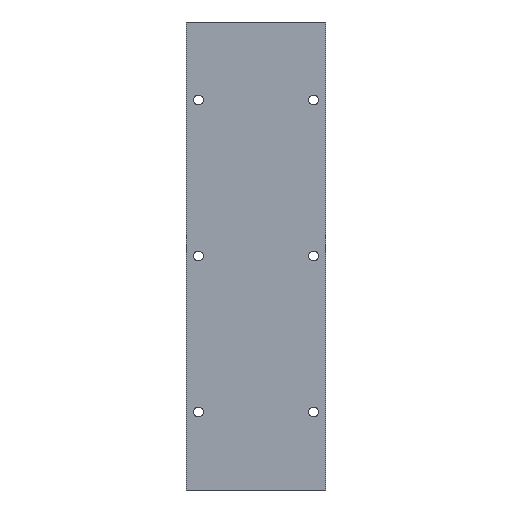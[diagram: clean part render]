
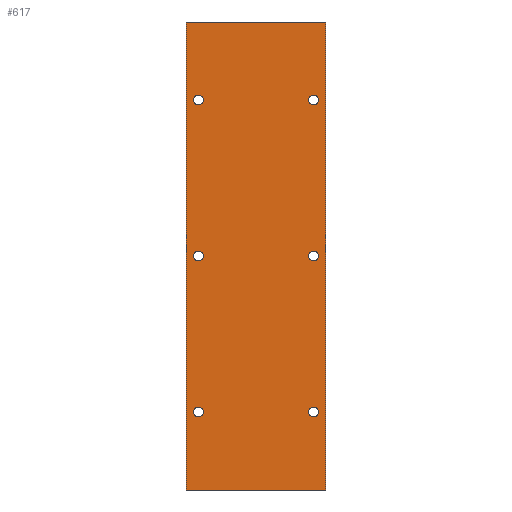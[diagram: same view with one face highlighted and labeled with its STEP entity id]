
A CAD part, front view. The second image highlights one B-rep face of the part: STEP entity #617.
In plain terms, the highlighted planar face has unit normal (0, -1, 0).
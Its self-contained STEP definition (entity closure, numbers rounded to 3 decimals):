
#4 = AXIS2_PLACEMENT_3D ( 'NONE', #748, #435, #426 ) ;
#11 = CARTESIAN_POINT ( 'NONE',  ( -37.5, -3., 252. ) ) ;
#12 = AXIS2_PLACEMENT_3D ( 'NONE', #736, #930, #330 ) ;
#13 = DIRECTION ( 'NONE',  ( 0., 0., -1. ) ) ;
#14 = LINE ( 'NONE', #1012, #496 ) ;
#31 = DIRECTION ( 'NONE',  ( 0., 1., 0. ) ) ;
#34 = FACE_OUTER_BOUND ( 'NONE', #968, .T. ) ;
#36 = VERTEX_POINT ( 'NONE', #396 ) ;
#39 = CARTESIAN_POINT ( 'NONE',  ( -31., -3., 123.35 ) ) ;
#40 = AXIS2_PLACEMENT_3D ( 'NONE', #711, #988, #997 ) ;
#41 = ORIENTED_EDGE ( 'NONE', *, *, #769, .T. ) ;
#49 = DIRECTION ( 'NONE',  ( 0., 0., 1. ) ) ;
#54 = CIRCLE ( 'NONE', #1256, 2.65 ) ;
#55 = CARTESIAN_POINT ( 'NONE',  ( 31., -3., 210. ) ) ;
#56 = ORIENTED_EDGE ( 'NONE', *, *, #188, .T. ) ;
#80 = FACE_BOUND ( 'NONE', #981, .T. ) ;
#81 = VERTEX_POINT ( 'NONE', #609 ) ;
#94 = EDGE_CURVE ( 'NONE', #943, #138, #1244, .T. ) ;
#107 = DIRECTION ( 'NONE',  ( 0., 1., 0. ) ) ;
#134 = DIRECTION ( 'NONE',  ( 0., 0., 1. ) ) ;
#138 = VERTEX_POINT ( 'NONE', #701 ) ;
#151 = DIRECTION ( 'NONE',  ( 1., 0., 0. ) ) ;
#155 = LINE ( 'NONE', #738, #702 ) ;
#159 = ORIENTED_EDGE ( 'NONE', *, *, #203, .T. ) ;
#162 = VERTEX_POINT ( 'NONE', #1222 ) ;
#177 = EDGE_CURVE ( 'NONE', #1114, #81, #917, .T. ) ;
#187 = CARTESIAN_POINT ( 'NONE',  ( -37.5, -3., 252. ) ) ;
#188 = EDGE_CURVE ( 'NONE', #652, #1093, #491, .T. ) ;
#195 = CIRCLE ( 'NONE', #740, 2.65 ) ;
#200 = PLANE ( 'NONE',  #662 ) ;
#203 = EDGE_CURVE ( 'NONE', #283, #36, #708, .T. ) ;
#220 = DIRECTION ( 'NONE',  ( 0., 0., 1. ) ) ;
#227 = FACE_BOUND ( 'NONE', #1031, .T. ) ;
#230 = ORIENTED_EDGE ( 'NONE', *, *, #1190, .F. ) ;
#234 = EDGE_CURVE ( 'NONE', #81, #1114, #54, .T. ) ;
#236 = ORIENTED_EDGE ( 'NONE', *, *, #355, .T. ) ;
#237 = LINE ( 'NONE', #1170, #959 ) ;
#245 = ORIENTED_EDGE ( 'NONE', *, *, #616, .T. ) ;
#252 = EDGE_CURVE ( 'NONE', #1029, #1217, #1173, .T. ) ;
#260 = CARTESIAN_POINT ( 'NONE',  ( 31., -3., 210. ) ) ;
#265 = DIRECTION ( 'NONE',  ( 0., 1., 0. ) ) ;
#283 = VERTEX_POINT ( 'NONE', #1229 ) ;
#286 = DIRECTION ( 'NONE',  ( 0., 0., 1. ) ) ;
#302 = VERTEX_POINT ( 'NONE', #755 ) ;
#303 = DIRECTION ( 'NONE',  ( 1., 0., 0. ) ) ;
#317 = DIRECTION ( 'NONE',  ( 0., 0., 1. ) ) ;
#330 = DIRECTION ( 'NONE',  ( 0., 0., 1. ) ) ;
#333 = VERTEX_POINT ( 'NONE', #566 ) ;
#342 = AXIS2_PLACEMENT_3D ( 'NONE', #55, #745, #49 ) ;
#349 = CARTESIAN_POINT ( 'NONE',  ( -37.5, -3., 252. ) ) ;
#355 = EDGE_CURVE ( 'NONE', #1093, #652, #606, .T. ) ;
#356 = CIRCLE ( 'NONE', #687, 2.65 ) ;
#367 = DIRECTION ( 'NONE',  ( 0., 0., 1. ) ) ;
#377 = DIRECTION ( 'NONE',  ( 0., 0., 1. ) ) ;
#396 = CARTESIAN_POINT ( 'NONE',  ( 31., -3., 44.65 ) ) ;
#400 = ORIENTED_EDGE ( 'NONE', *, *, #234, .T. ) ;
#411 = ORIENTED_EDGE ( 'NONE', *, *, #1062, .T. ) ;
#426 = DIRECTION ( 'NONE',  ( 0., 0., 1. ) ) ;
#435 = DIRECTION ( 'NONE',  ( 0., 1., 0. ) ) ;
#444 = DIRECTION ( 'NONE',  ( 0., 0., 1. ) ) ;
#490 = CARTESIAN_POINT ( 'NONE',  ( 31., -3., 212.65 ) ) ;
#491 = CIRCLE ( 'NONE', #12, 2.65 ) ;
#496 = VECTOR ( 'NONE', #303, 1000. ) ;
#508 = ORIENTED_EDGE ( 'NONE', *, *, #177, .T. ) ;
#519 = AXIS2_PLACEMENT_3D ( 'NONE', #732, #723, #529 ) ;
#529 = DIRECTION ( 'NONE',  ( 0., 0., 1. ) ) ;
#534 = ORIENTED_EDGE ( 'NONE', *, *, #842, .T. ) ;
#566 = CARTESIAN_POINT ( 'NONE',  ( 37.5, -3., 252. ) ) ;
#602 = CARTESIAN_POINT ( 'NONE',  ( 31., -3., 123.35 ) ) ;
#606 = CIRCLE ( 'NONE', #1249, 2.65 ) ;
#609 = CARTESIAN_POINT ( 'NONE',  ( 31., -3., 207.35 ) ) ;
#611 = CARTESIAN_POINT ( 'NONE',  ( -31., -3., 207.35 ) ) ;
#615 = CARTESIAN_POINT ( 'NONE',  ( -31., -3., 42. ) ) ;
#616 = EDGE_CURVE ( 'NONE', #677, #302, #195, .T. ) ;
#617 = ADVANCED_FACE ( 'NONE', ( #80, #801, #886, #227, #1171, #788, #34 ), #200, .F. ) ;
#619 = CARTESIAN_POINT ( 'NONE',  ( 31., -3., 126. ) ) ;
#623 = CIRCLE ( 'NONE', #1158, 2.65 ) ;
#638 = EDGE_LOOP ( 'NONE', ( #1247, #245 ) ) ;
#642 = ORIENTED_EDGE ( 'NONE', *, *, #94, .T. ) ;
#652 = VERTEX_POINT ( 'NONE', #39 ) ;
#662 = AXIS2_PLACEMENT_3D ( 'NONE', #11, #800, #286 ) ;
#677 = VERTEX_POINT ( 'NONE', #602 ) ;
#679 = ORIENTED_EDGE ( 'NONE', *, *, #1105, .T. ) ;
#687 = AXIS2_PLACEMENT_3D ( 'NONE', #619, #31, #317 ) ;
#689 = EDGE_CURVE ( 'NONE', #138, #943, #623, .T. ) ;
#694 = DIRECTION ( 'NONE',  ( 0., 0., 1. ) ) ;
#695 = AXIS2_PLACEMENT_3D ( 'NONE', #615, #714, #134 ) ;
#701 = CARTESIAN_POINT ( 'NONE',  ( -31., -3., 44.65 ) ) ;
#702 = VECTOR ( 'NONE', #151, 1000. ) ;
#705 = EDGE_CURVE ( 'NONE', #1029, #333, #14, .T. ) ;
#708 = CIRCLE ( 'NONE', #519, 2.65 ) ;
#711 = CARTESIAN_POINT ( 'NONE',  ( 31., -3., 42. ) ) ;
#714 = DIRECTION ( 'NONE',  ( 0., 1., 0. ) ) ;
#722 = EDGE_CURVE ( 'NONE', #302, #677, #356, .T. ) ;
#723 = DIRECTION ( 'NONE',  ( 0., 1., 0. ) ) ;
#726 = VERTEX_POINT ( 'NONE', #611 ) ;
#732 = CARTESIAN_POINT ( 'NONE',  ( 31., -3., 42. ) ) ;
#736 = CARTESIAN_POINT ( 'NONE',  ( -31., -3., 126. ) ) ;
#738 = CARTESIAN_POINT ( 'NONE',  ( -37.5, -3., 0. ) ) ;
#740 = AXIS2_PLACEMENT_3D ( 'NONE', #983, #1075, #694 ) ;
#742 = VERTEX_POINT ( 'NONE', #918 ) ;
#745 = DIRECTION ( 'NONE',  ( 0., 1., 0. ) ) ;
#746 = EDGE_LOOP ( 'NONE', ( #1248, #642 ) ) ;
#748 = CARTESIAN_POINT ( 'NONE',  ( -31., -3., 210. ) ) ;
#755 = CARTESIAN_POINT ( 'NONE',  ( 31., -3., 128.65 ) ) ;
#756 = EDGE_LOOP ( 'NONE', ( #679, #159 ) ) ;
#767 = AXIS2_PLACEMENT_3D ( 'NONE', #977, #107, #367 ) ;
#769 = EDGE_CURVE ( 'NONE', #726, #162, #979, .T. ) ;
#788 = FACE_BOUND ( 'NONE', #746, .T. ) ;
#800 = DIRECTION ( 'NONE',  ( 0., 1., 0. ) ) ;
#801 = FACE_BOUND ( 'NONE', #849, .T. ) ;
#825 = CIRCLE ( 'NONE', #40, 2.65 ) ;
#826 = DIRECTION ( 'NONE',  ( 0., 1., 0. ) ) ;
#842 = EDGE_CURVE ( 'NONE', #1217, #742, #155, .T. ) ;
#846 = CARTESIAN_POINT ( 'NONE',  ( -31., -3., 39.35 ) ) ;
#849 = EDGE_LOOP ( 'NONE', ( #411, #41 ) ) ;
#857 = ORIENTED_EDGE ( 'NONE', *, *, #252, .T. ) ;
#886 = FACE_BOUND ( 'NONE', #638, .T. ) ;
#917 = CIRCLE ( 'NONE', #342, 2.65 ) ;
#918 = CARTESIAN_POINT ( 'NONE',  ( 37.5, -3., 0. ) ) ;
#930 = DIRECTION ( 'NONE',  ( 0., 1., 0. ) ) ;
#943 = VERTEX_POINT ( 'NONE', #846 ) ;
#959 = VECTOR ( 'NONE', #13, 1000. ) ;
#966 = CARTESIAN_POINT ( 'NONE',  ( -31., -3., 128.65 ) ) ;
#968 = EDGE_LOOP ( 'NONE', ( #534, #230, #1157, #857 ) ) ;
#977 = CARTESIAN_POINT ( 'NONE',  ( -31., -3., 210. ) ) ;
#979 = CIRCLE ( 'NONE', #4, 2.65 ) ;
#981 = EDGE_LOOP ( 'NONE', ( #508, #400 ) ) ;
#983 = CARTESIAN_POINT ( 'NONE',  ( 31., -3., 126. ) ) ;
#988 = DIRECTION ( 'NONE',  ( 0., 1., 0. ) ) ;
#997 = DIRECTION ( 'NONE',  ( 0., 0., 1. ) ) ;
#1012 = CARTESIAN_POINT ( 'NONE',  ( -37.5, -3., 252. ) ) ;
#1029 = VERTEX_POINT ( 'NONE', #187 ) ;
#1031 = EDGE_LOOP ( 'NONE', ( #236, #56 ) ) ;
#1062 = EDGE_CURVE ( 'NONE', #162, #726, #1073, .T. ) ;
#1073 = CIRCLE ( 'NONE', #767, 2.65 ) ;
#1075 = DIRECTION ( 'NONE',  ( 0., 1., 0. ) ) ;
#1093 = VERTEX_POINT ( 'NONE', #966 ) ;
#1105 = EDGE_CURVE ( 'NONE', #36, #283, #825, .T. ) ;
#1114 = VERTEX_POINT ( 'NONE', #490 ) ;
#1137 = DIRECTION ( 'NONE',  ( 0., 1., 0. ) ) ;
#1140 = VECTOR ( 'NONE', #1141, 1000. ) ;
#1141 = DIRECTION ( 'NONE',  ( 0., 0., -1. ) ) ;
#1145 = CARTESIAN_POINT ( 'NONE',  ( -31., -3., 126. ) ) ;
#1157 = ORIENTED_EDGE ( 'NONE', *, *, #705, .F. ) ;
#1158 = AXIS2_PLACEMENT_3D ( 'NONE', #1192, #826, #220 ) ;
#1170 = CARTESIAN_POINT ( 'NONE',  ( 37.5, -3., 252. ) ) ;
#1171 = FACE_BOUND ( 'NONE', #756, .T. ) ;
#1173 = LINE ( 'NONE', #349, #1140 ) ;
#1190 = EDGE_CURVE ( 'NONE', #333, #742, #237, .T. ) ;
#1192 = CARTESIAN_POINT ( 'NONE',  ( -31., -3., 42. ) ) ;
#1206 = CARTESIAN_POINT ( 'NONE',  ( -37.5, -3., 0. ) ) ;
#1217 = VERTEX_POINT ( 'NONE', #1206 ) ;
#1222 = CARTESIAN_POINT ( 'NONE',  ( -31., -3., 212.65 ) ) ;
#1229 = CARTESIAN_POINT ( 'NONE',  ( 31., -3., 39.35 ) ) ;
#1244 = CIRCLE ( 'NONE', #695, 2.65 ) ;
#1247 = ORIENTED_EDGE ( 'NONE', *, *, #722, .T. ) ;
#1248 = ORIENTED_EDGE ( 'NONE', *, *, #689, .T. ) ;
#1249 = AXIS2_PLACEMENT_3D ( 'NONE', #1145, #265, #377 ) ;
#1256 = AXIS2_PLACEMENT_3D ( 'NONE', #260, #1137, #444 ) ;
